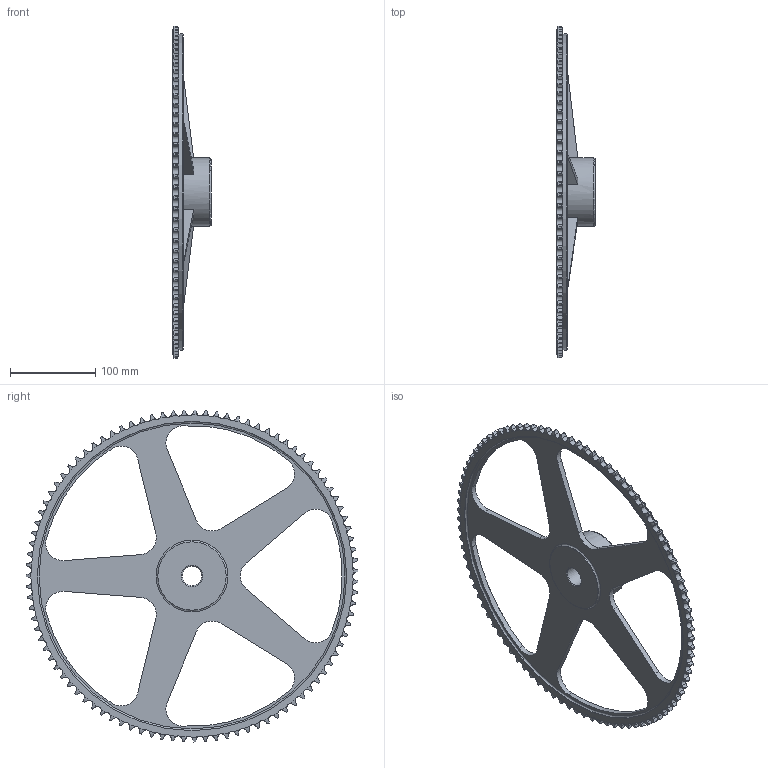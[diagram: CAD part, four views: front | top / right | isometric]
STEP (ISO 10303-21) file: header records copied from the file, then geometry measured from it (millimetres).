
FILE_DESCRIPTION(/* description */ (''),/* implementation_level */ '2;1');
FILE_NAME(/* name */ 'C:\Users\stagistacad\Desktop\12112095.stp',/* time_stamp */ '2018-06-20T16:35:54+02:00',/* author */ ('stagistacad'),/* organization */ (''),/* preprocessor_version */ 'ST-DEVELOPER v15.6',/* originating_system */ 'Autodesk Inventor 2015',/* authorisation */ '');
FILE_SCHEMA (('AUTOMOTIVE_DESIGN { 1 0 10303 214 3 1 1 }'));
Length unit declared in the file: millimetre
Products named in the file (1): 12112095
Bounding box: 45 x 388.53 x 388.57 mm (x, y, z)
Volume: 569384 mm3; surface area: 164245.7 mm2
Topology: 1 solids, 1 shells, 649 faces, 2108 edges, 1466 vertices
Faces by surface type: cylinder 416, torus 198, plane 27, cone 8
Full cylindrical faces by diameter (mm): 23 x1, 80 x2, 362.04 x2, 370 x1
Entity records: 26126 total; most frequent: CARTESIAN_POINT 8782, ORIENTED_EDGE 4188, DIRECTION 3068, EDGE_CURVE 2094, VERTEX_POINT 1464, AXIS2_PLACEMENT_3D 1304, B_SPLINE_CURVE_WITH_KNOTS 970, EDGE_LOOP 678
